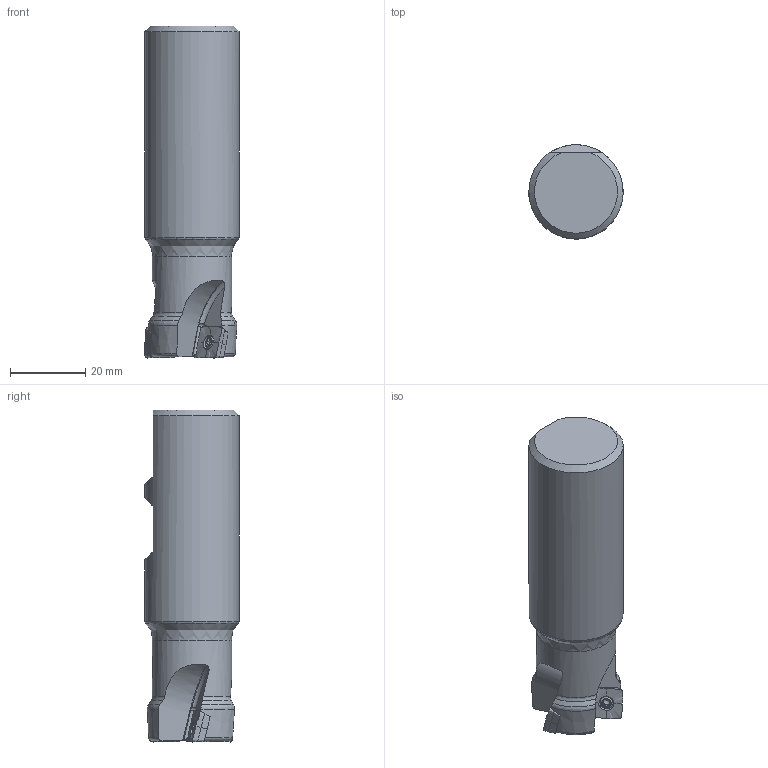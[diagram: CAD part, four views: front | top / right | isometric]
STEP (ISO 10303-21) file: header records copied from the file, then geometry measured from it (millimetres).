
FILE_DESCRIPTION(/* description */ (''),/* implementation_level */ '2;1');
FILE_NAME(/* name */ 'toolassembly_1.stp',/* time_stamp */ '2019-03-21T13:50:59+01:00',/* author */ (''),/* organization */ ('SMS'),/* preprocessor_version */ 'ST-DEVELOPER v15',/* originating_system */ 'SIEMENS PLM Software NX 8.5',/* authorisation */ '');
FILE_SCHEMA (('AUTOMOTIVE_DESIGN { 1 0 10303 214 3 1 1 1 }'));
Length unit declared in the file: millimetre
Products named in the file (4): CUT_20190321135007; NOCUT_20190321134959; ASSEMBLY_CONSTRUCTION; TOOLASSEMBLY_1
Assembly tree (5 placements, depth 2):
  TOOLASSEMBLY_1
    ASSEMBLY_CONSTRUCTION
    NOCUT_20190321134959
    CUT_20190321135007  x3
Bounding box: 24.99 x 24.99 x 88.01 mm (x, y, z)
Volume: 36419.7 mm3; surface area: 8422.7 mm2
Topology: 4 solids, 4 shells, 269 faces, 757 edges, 506 vertices
Faces by surface type: plane 100, bspline 42, cone 38, extrusion 36, torus 29, cylinder 17, sphere 6, revolution 1
Full cylindrical faces by diameter (mm): 2.5 x3, 2.8 x3, 3.45 x3, 21 x1, 24.994 x1
Entity records: 18909 total; most frequent: CARTESIAN_POINT 13439, ORIENTED_EDGE 1148, DIRECTION 1006, EDGE_CURVE 574, AXIS2_PLACEMENT_3D 416, VERTEX_POINT 385, EDGE_LOOP 260, B_SPLINE_CURVE_WITH_KNOTS 242
